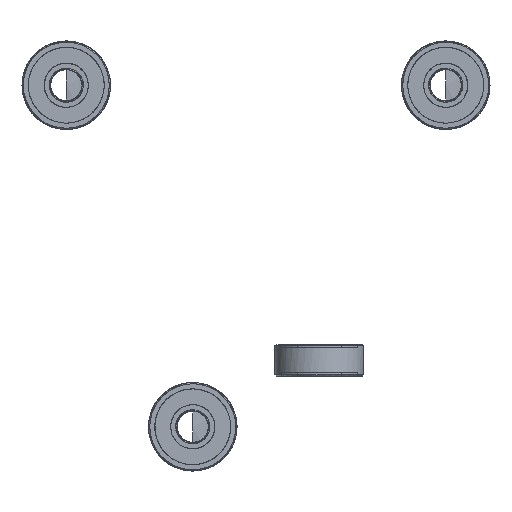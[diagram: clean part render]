
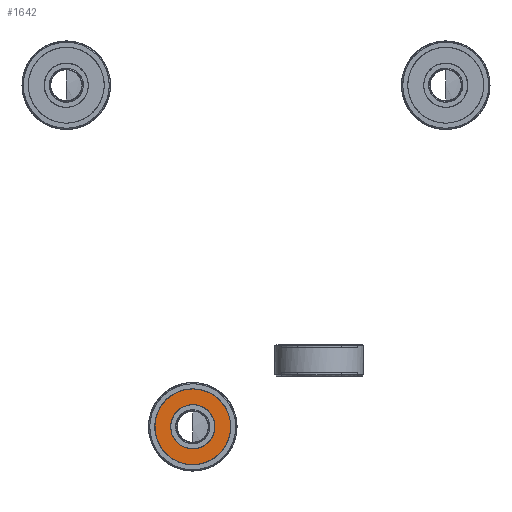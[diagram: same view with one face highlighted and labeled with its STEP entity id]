
A CAD part, left-side view. The second image highlights one B-rep face of the part: STEP entity #1642.
In plain terms, the highlighted planar face has unit normal (-1, 0, 0) as drawn and (1, 0, 0) by its records, which use the part's own axes.
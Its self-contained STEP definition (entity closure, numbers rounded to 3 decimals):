
#55=FACE_BOUND('',#1927,.T.);
#85=PLANE('',#5755);
#1642=ADVANCED_FACE('',(#1772,#55),#85,.T.);
#1772=FACE_OUTER_BOUND('',#1926,.T.);
#1926=EDGE_LOOP('',(#2355));
#1927=EDGE_LOOP('',(#2356));
#2355=ORIENTED_EDGE('',*,*,#4690,.T.);
#2356=ORIENTED_EDGE('',*,*,#4691,.T.);
#2810=PCURVE('',#85,#3265);
#2811=PCURVE('',#85,#3266);
#3265=DEFINITIONAL_REPRESENTATION('',(#5084),#13987);
#3266=DEFINITIONAL_REPRESENTATION('',(#5086),#13987);
#4235=SURFACE_CURVE('',#5083,(#2810),.PCURVE_S1.);
#4236=SURFACE_CURVE('',#5085,(#2811),.PCURVE_S1.);
#4690=EDGE_CURVE('',#5540,#5540,#4235,.T.);
#4691=EDGE_CURVE('',#5541,#5541,#4236,.T.);
#5083=(
BOUNDED_CURVE()
B_SPLINE_CURVE(2,(#13095,#13096,#13097,#13098,#13099,#13100,#13101,#13102,
#13103),.UNSPECIFIED.,.T.,.F.)
B_SPLINE_CURVE_WITH_KNOTS((3,2,2,2,3),(-6.283,-4.712,
-3.142,-1.571,0.),.UNSPECIFIED.)
CURVE()
GEOMETRIC_REPRESENTATION_ITEM()
RATIONAL_B_SPLINE_CURVE((1.,0.707,1.,0.707,1.,0.707,
1.,0.707,1.))
REPRESENTATION_ITEM('')
);
#5084=(
BOUNDED_CURVE()
B_SPLINE_CURVE(2,(#13104,#13105,#13106,#13107,#13108,#13109,#13110,#13111,
#13112),.UNSPECIFIED.,.T.,.F.)
B_SPLINE_CURVE_WITH_KNOTS((3,2,2,2,3),(-6.283,-4.712,
-3.142,-1.571,0.),.UNSPECIFIED.)
CURVE()
GEOMETRIC_REPRESENTATION_ITEM()
RATIONAL_B_SPLINE_CURVE((1.,0.707,1.,0.707,1.,0.707,
1.,0.707,1.))
REPRESENTATION_ITEM('')
);
#5085=(
BOUNDED_CURVE()
B_SPLINE_CURVE(2,(#13113,#13114,#13115,#13116,#13117,#13118,#13119,#13120,
#13121),.UNSPECIFIED.,.T.,.F.)
B_SPLINE_CURVE_WITH_KNOTS((3,2,2,2,3),(-9.425,-7.854,
-6.283,-4.712,-3.142),.UNSPECIFIED.)
CURVE()
GEOMETRIC_REPRESENTATION_ITEM()
RATIONAL_B_SPLINE_CURVE((1.,0.707,1.,0.707,1.,0.707,
1.,0.707,1.))
REPRESENTATION_ITEM('')
);
#5086=(
BOUNDED_CURVE()
B_SPLINE_CURVE(2,(#13122,#13123,#13124,#13125,#13126,#13127,#13128,#13129,
#13130),.UNSPECIFIED.,.T.,.F.)
B_SPLINE_CURVE_WITH_KNOTS((3,2,2,2,3),(-9.425,-7.854,
-6.283,-4.712,-3.142),.UNSPECIFIED.)
CURVE()
GEOMETRIC_REPRESENTATION_ITEM()
RATIONAL_B_SPLINE_CURVE((1.,0.707,1.,0.707,1.,0.707,
1.,0.707,1.))
REPRESENTATION_ITEM('')
);
#5540=VERTEX_POINT('',#13093);
#5541=VERTEX_POINT('',#13094);
#5755=AXIS2_PLACEMENT_3D('',#13092,#5794,$);
#5794=DIRECTION('',(1.,0.,0.));
#13092=CARTESIAN_POINT('',(4.476,-6.,6.));
#13093=CARTESIAN_POINT('',(4.476,6.,0.));
#13094=CARTESIAN_POINT('',(4.476,-3.5,0.));
#13095=CARTESIAN_POINT('',(4.476,6.,0.));
#13096=CARTESIAN_POINT('',(4.476,6.,6.));
#13097=CARTESIAN_POINT('',(4.476,0.,6.));
#13098=CARTESIAN_POINT('',(4.476,-6.,6.));
#13099=CARTESIAN_POINT('',(4.476,-6.,0.));
#13100=CARTESIAN_POINT('',(4.476,-6.,-6.));
#13101=CARTESIAN_POINT('',(4.476,0.,-6.));
#13102=CARTESIAN_POINT('',(4.476,6.,-6.));
#13103=CARTESIAN_POINT('',(4.476,6.,0.));
#13104=CARTESIAN_POINT('',(0.5,1.));
#13105=CARTESIAN_POINT('',(0.,1.));
#13106=CARTESIAN_POINT('',(0.,0.5));
#13107=CARTESIAN_POINT('',(0.,0.));
#13108=CARTESIAN_POINT('',(0.5,0.));
#13109=CARTESIAN_POINT('',(1.,0.));
#13110=CARTESIAN_POINT('',(1.,0.5));
#13111=CARTESIAN_POINT('',(1.,1.));
#13112=CARTESIAN_POINT('',(0.5,1.));
#13113=CARTESIAN_POINT('',(4.476,-3.5,0.));
#13114=CARTESIAN_POINT('',(4.476,-3.5,3.5));
#13115=CARTESIAN_POINT('',(4.476,0.,3.5));
#13116=CARTESIAN_POINT('',(4.476,3.5,3.5));
#13117=CARTESIAN_POINT('',(4.476,3.5,0.));
#13118=CARTESIAN_POINT('',(4.476,3.5,-3.5));
#13119=CARTESIAN_POINT('',(4.476,0.,-3.5));
#13120=CARTESIAN_POINT('',(4.476,-3.5,-3.5));
#13121=CARTESIAN_POINT('',(4.476,-3.5,0.));
#13122=CARTESIAN_POINT('',(0.5,0.208));
#13123=CARTESIAN_POINT('',(0.208,0.208));
#13124=CARTESIAN_POINT('',(0.208,0.5));
#13125=CARTESIAN_POINT('',(0.208,0.792));
#13126=CARTESIAN_POINT('',(0.5,0.792));
#13127=CARTESIAN_POINT('',(0.792,0.792));
#13128=CARTESIAN_POINT('',(0.792,0.5));
#13129=CARTESIAN_POINT('',(0.792,0.208));
#13130=CARTESIAN_POINT('',(0.5,0.208));
#13987=(
GEOMETRIC_REPRESENTATION_CONTEXT(2)
PARAMETRIC_REPRESENTATION_CONTEXT()
REPRESENTATION_CONTEXT('pspace','')
);
